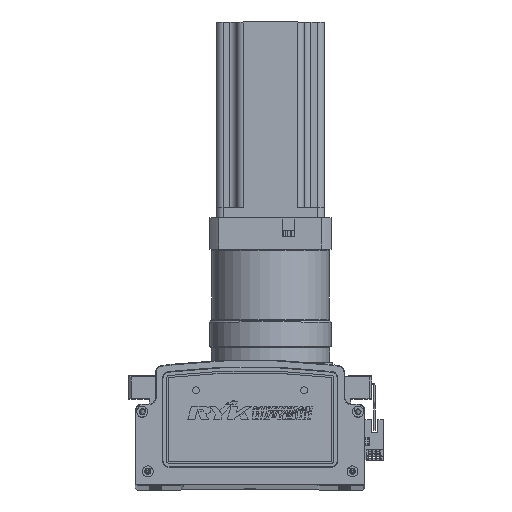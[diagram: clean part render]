
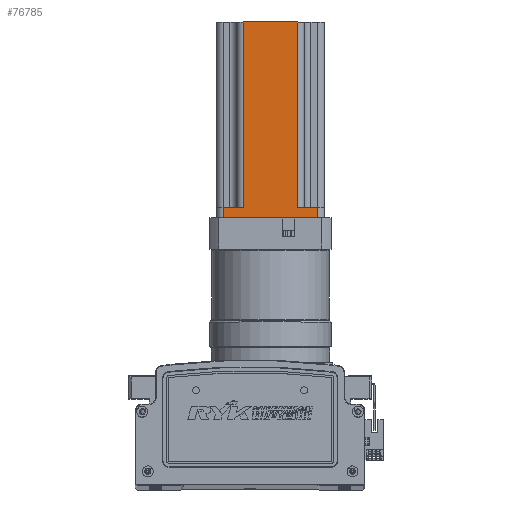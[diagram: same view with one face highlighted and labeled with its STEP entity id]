
A CAD part, top view. The second image highlights one B-rep face of the part: STEP entity #76785.
In plain terms, the highlighted planar face has unit normal (0, 0, 1) as drawn and (0, -1, 0) by its records, which use the part's own axes.
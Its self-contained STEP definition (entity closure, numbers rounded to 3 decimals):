
#5793 = VERTEX_POINT ( 'NONE', #18474 ) ;
#5843 = VERTEX_POINT ( 'NONE', #18541 ) ;
#5846 = VERTEX_POINT ( 'NONE', #18566 ) ;
#5850 = VERTEX_POINT ( 'NONE', #18518 ) ;
#5860 = VERTEX_POINT ( 'NONE', #18515 ) ;
#5861 = VERTEX_POINT ( 'NONE', #18534 ) ;
#5864 = VERTEX_POINT ( 'NONE', #18516 ) ;
#5873 = VERTEX_POINT ( 'NONE', #18531 ) ;
#7752 = LINE ( 'NONE', #23167, #7802 ) ;
#7802 = VECTOR ( 'NONE', #23173, 1000. ) ;
#7815 = VECTOR ( 'NONE', #23118, 1000. ) ;
#7819 = LINE ( 'NONE', #23127, #7815 ) ;
#7828 = LINE ( 'NONE', #23260, #7847 ) ;
#7838 = LINE ( 'NONE', #23236, #7842 ) ;
#7842 = VECTOR ( 'NONE', #23318, 1000. ) ;
#7847 = VECTOR ( 'NONE', #23238, 1000. ) ;
#7866 = LINE ( 'NONE', #23343, #7889 ) ;
#7880 = VECTOR ( 'NONE', #23369, 1000. ) ;
#7882 = LINE ( 'NONE', #23363, #7880 ) ;
#7886 = LINE ( 'NONE', #23383, #7891 ) ;
#7889 = VECTOR ( 'NONE', #23382, 1000. ) ;
#7891 = VECTOR ( 'NONE', #23409, 1000. ) ;
#8011 = VECTOR ( 'NONE', #23842, 1000. ) ;
#8045 = LINE ( 'NONE', #23827, #8011 ) ;
#15103 = EDGE_CURVE ( 'NONE', #5846, #5861, #7752, .T. ) ;
#15104 = EDGE_CURVE ( 'NONE', #5850, #5793, #7819, .T. ) ;
#15117 = EDGE_CURVE ( 'NONE', #5860, #5850, #7828, .T. ) ;
#15133 = EDGE_CURVE ( 'NONE', #5793, #5843, #7838, .T. ) ;
#15150 = EDGE_CURVE ( 'NONE', #5860, #5861, #7866, .T. ) ;
#15154 = EDGE_CURVE ( 'NONE', #5873, #5843, #7882, .T. ) ;
#15164 = EDGE_CURVE ( 'NONE', #5846, #5864, #7886, .T. ) ;
#15227 = EDGE_CURVE ( 'NONE', #5873, #5864, #8045, .T. ) ;
#18474 = CARTESIAN_POINT ( 'NONE',  ( -12.587, -40.37, 0. ) ) ;
#18515 = CARTESIAN_POINT ( 'NONE',  ( -82.587, -40.37, 8. ) ) ;
#18516 = CARTESIAN_POINT ( 'NONE',  ( -27.587, -40.37, 145. ) ) ;
#18518 = CARTESIAN_POINT ( 'NONE',  ( -82.587, -40.37, 0. ) ) ;
#18531 = CARTESIAN_POINT ( 'NONE',  ( -27.587, -40.37, 8. ) ) ;
#18534 = CARTESIAN_POINT ( 'NONE',  ( -67.587, -40.37, 8. ) ) ;
#18541 = CARTESIAN_POINT ( 'NONE',  ( -12.587, -40.37, 8. ) ) ;
#18566 = CARTESIAN_POINT ( 'NONE',  ( -67.587, -40.37, 145. ) ) ;
#23118 = DIRECTION ( 'NONE',  ( 1., 0., 0. ) ) ;
#23127 = CARTESIAN_POINT ( 'NONE',  ( -87.587, -40.37, 0. ) ) ;
#23167 = CARTESIAN_POINT ( 'NONE',  ( -67.587, -40.37, 145. ) ) ;
#23173 = DIRECTION ( 'NONE',  ( 0., 0., -1. ) ) ;
#23236 = CARTESIAN_POINT ( 'NONE',  ( -12.587, -40.37, 145. ) ) ;
#23238 = DIRECTION ( 'NONE',  ( 0., 0., -1. ) ) ;
#23260 = CARTESIAN_POINT ( 'NONE',  ( -82.587, -40.37, 145. ) ) ;
#23318 = DIRECTION ( 'NONE',  ( 0., 0., 1. ) ) ;
#23343 = CARTESIAN_POINT ( 'NONE',  ( -87.587, -40.37, 8. ) ) ;
#23363 = CARTESIAN_POINT ( 'NONE',  ( -7.587, -40.37, 8. ) ) ;
#23369 = DIRECTION ( 'NONE',  ( 1., 0., 0. ) ) ;
#23382 = DIRECTION ( 'NONE',  ( 1., 0., 0. ) ) ;
#23383 = CARTESIAN_POINT ( 'NONE',  ( -87.587, -40.37, 145. ) ) ;
#23409 = DIRECTION ( 'NONE',  ( 1., 0., 0. ) ) ;
#23827 = CARTESIAN_POINT ( 'NONE',  ( -27.587, -40.37, 145. ) ) ;
#23842 = DIRECTION ( 'NONE',  ( 0., 0., 1. ) ) ;
#29935 = EDGE_LOOP ( 'NONE', ( #74250, #74233, #74224, #74211, #74236, #74257, #74266, #74249 ) ) ;
#36793 = AXIS2_PLACEMENT_3D ( 'NONE', #48058, #48083, #48071 ) ;
#48048 = PLANE ( 'NONE',  #36793 ) ;
#48058 = CARTESIAN_POINT ( 'NONE',  ( -87.587, -40.37, 145. ) ) ;
#48071 = DIRECTION ( 'NONE',  ( -1., 0., 0. ) ) ;
#48083 = DIRECTION ( 'NONE',  ( 0., 1., 0. ) ) ;
#74211 = ORIENTED_EDGE ( 'NONE', *, *, #15133, .T. ) ;
#74224 = ORIENTED_EDGE ( 'NONE', *, *, #15104, .T. ) ;
#74233 = ORIENTED_EDGE ( 'NONE', *, *, #15117, .T. ) ;
#74236 = ORIENTED_EDGE ( 'NONE', *, *, #15154, .F. ) ;
#74249 = ORIENTED_EDGE ( 'NONE', *, *, #15103, .T. ) ;
#74250 = ORIENTED_EDGE ( 'NONE', *, *, #15150, .F. ) ;
#74257 = ORIENTED_EDGE ( 'NONE', *, *, #15227, .T. ) ;
#74266 = ORIENTED_EDGE ( 'NONE', *, *, #15164, .F. ) ;
#76785 = ADVANCED_FACE ( 'NONE', ( #79522 ), #48048, .F. ) ;
#79522 = FACE_OUTER_BOUND ( 'NONE', #29935, .T. ) ;
